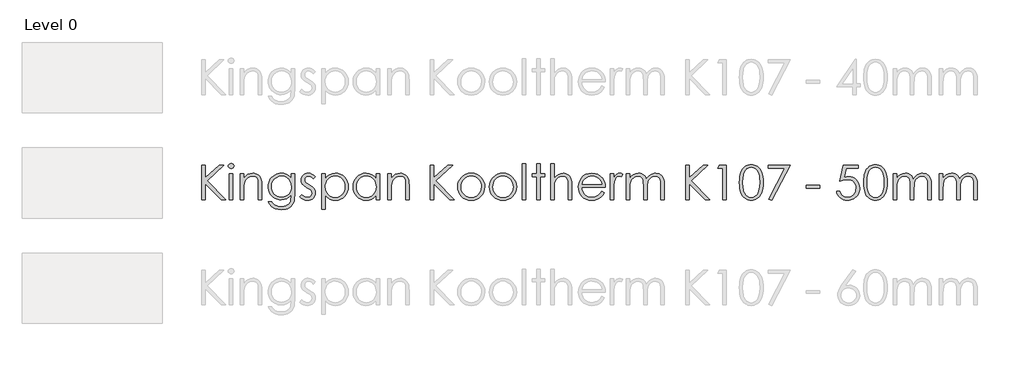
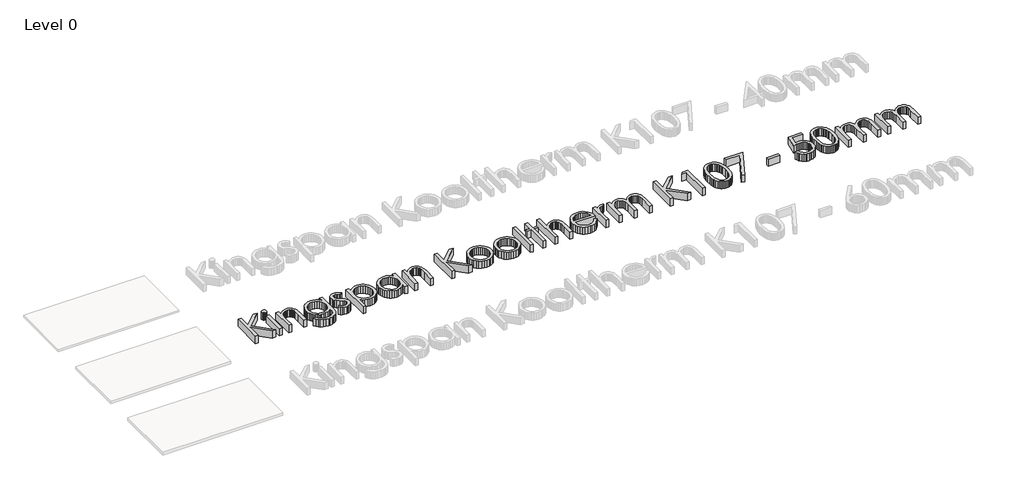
# One storey, part 11 of 13: 1 proxy.
"""IFC4 building model written with IfcOpenShell, lengths in millimetres."""

from ifc_helpers import new_model, si_unit, origin, origin_with_axes, place, context, project, spatial, polyline, outline, extrude, element, save

model = new_model("IFC4")

# Units and contexts
model_context = context("Model", 3, world=origin())
ifc_project = project(units=[si_unit("LENGTHUNIT", "METRE", prefix="MILLI")], contexts=[model_context])

# Site, building, storey
site = spatial("IfcSite", under=ifc_project)
building = spatial("IfcBuilding", under=site)
storey = spatial("IfcBuildingStorey", under=building, Name="Level 0", Elevation=0.0)

# Proxy
placement = place(None, origin())
element("IfcBuildingElementProxy", 1, Name="600mm KI_CenturyGothic", ObjectType="600mm KI_CenturyGothic", at=placement, inside=storey, context=model_context, shape_type="SweptSolid", body=[
    extrude(outline(polyline([(-3852.2663848, 2300.8965983), (-3792.944575, 2300.8965983), (-3792.944575, 2081.683973), (-3555.1938841, 2300.8965983), (-3471.6181051, 2300.8965983), (-3760.9664119, 2033.9484541), (-3441.9572002, 1707.6785001), (-3520.8984627, 1707.6785001), (-3792.944575, 1985.9039675), (-3792.944575, 1707.6785001), (-3852.2663848, 1707.6785001), (-3852.2663848, 2300.8965983)])), origin_with_axes(), (0.0, 0.0, 1.0), 150.0),
    extrude(outline(polyline([(-3348.1854852, 2330.5575033), (-3329.145347, 2327.2747208), (-3313.1176445, 2317.4263735), (-3302.226531, 2302.9821307), (-3298.5961598, 2285.911662), (-3302.226531, 2269.0729191), (-3313.1176445, 2254.7059183), (-3329.145347, 2244.857571), (-3348.1854852, 2241.5747885), (-3366.9938975, 2244.857571), (-3382.9443581, 2254.7059183), (-3393.8354717, 2269.0729191), (-3397.4658428, 2285.911662), (-3393.8354717, 2302.9821307), (-3382.9443581, 2317.4263735), (-3366.9938975, 2327.2747208), (-3348.1854852, 2330.5575033)])), origin_with_axes(), (0.0, 0.0, 1.0), 150.0),
    extrude(outline(polyline([(-3377.6919062, 2152.5920738), (-3318.3700964, 2152.5920738), (-3318.3700964, 1707.6785001), (-3377.6919062, 1707.6785001), (-3377.6919062, 2152.5920738)])), origin_with_axes(), (0.0, 0.0, 1.0), 150.0),
    extrude(outline(polyline([(-3189.8395084, 2152.5920738), (-3130.5176986, 2152.5920738), (-3130.5176986, 2073.4963274), (-3096.9946967, 2113.0055796), (-3060.0730495, 2140.696815), (-3019.7141359, 2157.0334853), (-2975.879335, 2162.4790421), (-2953.4357238, 2160.9004099), (-2932.2955704, 2156.1645135), (-2912.4588747, 2148.2713528), (-2893.9256368, 2137.2209277), (-2877.212412, 2123.4960006), (-2862.835756, 2107.5793333), (-2841.0921499, 2069.1707787), (-2833.6238199, 2044.7912914), (-2828.2892984, 2014.4448643), (-2824.0216812, 1935.8511905), (-2824.0216812, 1707.6785001), (-2883.343491, 1707.6785001), (-2883.343491, 1920.8662542), (-2883.343491, 2023.907002), (-2884.7290183, 2044.7043943), (-2889.8125035, 2062.7596977), (-2898.2849788, 2078.0729123), (-2910.1464442, 2090.644038), (-2924.7403432, 2100.4441091), (-2941.4101193, 2107.4441599), (-2980.977303, 2113.0442006), (-3005.3471351, 2110.8862539), (-3028.4038541, 2104.4124138), (-3050.1474602, 2093.6226803), (-3070.5779533, 2078.5170534), (-3088.6622225, 2060.2348518), (-3103.3671568, 2039.915394), (-3114.6927562, 2017.55868), (-3122.6390208, 1993.1647099), (-3128.5480292, 1946.0857475), (-3130.5176986, 1871.5858965), (-3130.5176986, 1707.6785001), (-3189.8395084, 1707.6785001), (-3189.8395084, 2152.5920738)])), origin_with_axes(), (0.0, 0.0, 1.0), 150.0),
    extrude(outline(polyline([(-2319.7862977, 2152.5920738), (-2260.4644879, 2152.5920738), (-2260.4644879, 1801.604699), (-2264.5196897, 1721.3503235), (-2269.588692, 1690.5500999), (-2276.6852953, 1665.9678526), (-2289.9371156, 1637.3545415), (-2307.2924139, 1612.2267729), (-2328.7511904, 1590.5845469), (-2354.3134448, 1572.4278634), (-2383.3226209, 1558.0656902), (-2415.122162, 1547.8069951), (-2449.7120682, 1541.651778), (-2487.0923395, 1539.6000389), (-2541.0458345, 1543.6166198), (-2589.206184, 1555.6663624), (-2630.260275, 1574.4940853), (-2662.8949946, 1598.8446068), (-2690.2000204, 1632.1938144), (-2715.2650299, 1678.0175952), (-2655.94322, 1678.0175952), (-2642.4355358, 1656.848476), (-2627.0933555, 1638.6048954), (-2609.9166791, 1623.2868532), (-2590.9055067, 1610.8943494), (-2569.7894914, 1601.3308318), (-2546.2982864, 1594.4997477), (-2492.1903075, 1589.0348805), (-2438.5071593, 1594.3645743), (-2415.083541, 1601.0266916), (-2393.93856, 1610.3536559), (-2359.6624492, 1634.3952097), (-2336.8567664, 1663.8823202), (-2329.3884364, 1682.5217658), (-2324.0539149, 1706.2302137), (-2319.7862977, 1768.8541165), (-2319.7862977, 1791.5632468), (-2354.757586, 1755.7809182), (-2396.6420279, 1729.3834852), (-2443.392712, 1713.1047464), (-2492.9627269, 1707.6785001), (-2522.4063889, 1709.5757553), (-2550.9521133, 1715.2675207), (-2578.5999001, 1724.7537964), (-2605.3497494, 1738.0345825), (-2630.1540674, 1754.5257366), (-2651.9652601, 1773.6431168), (-2670.7833277, 1795.3867228), (-2686.6082702, 1819.7565549), (-2699.1456025, 1846.0719183), (-2708.1008399, 1873.6521184), (-2713.4739824, 1902.4971553), (-2715.2650299, 1932.607029), (-2713.3967404, 1962.8955247), (-2707.7918722, 1992.1219437), (-2698.4504251, 2020.286286), (-2685.3723991, 2047.3885517), (-2668.9971079, 2072.5742517), (-2649.7638648, 2094.9888971), (-2627.67267, 2114.632488), (-2602.7235235, 2131.5050242), (-2575.9833294, 2145.056157), (-2548.5189922, 2154.7355376), (-2520.3305117, 2160.543166), (-2491.4178881, 2162.4790421), (-2444.5320306, 2157.5355579), (-2400.8903346, 2142.7051055), (-2359.6045177, 2116.1338782), (-2319.7862977, 2075.9680694), (-2319.7862977, 2152.5920738)]), holes=[polyline([(-2484.1571458, 2113.0442006), (-2529.0154023, 2107.0193293), (-2570.5908765, 2088.9447153), (-2606.2187212, 2060.2300242), (-2633.2340897, 2022.2849212), (-2650.2659375, 1978.0059792), (-2655.94322, 1930.2897708), (-2653.0080263, 1894.3770964), (-2644.2024452, 1861.7182387), (-2629.5264766, 1832.3131977), (-2608.9801206, 1806.1619734), (-2583.7606272, 1784.703197), (-2555.0652466, 1769.3754996), (-2522.8939786, 1760.1788811), (-2487.2468234, 1757.1133416), (-2451.3244937, 1760.154743), (-2419.1001219, 1769.2789472), (-2390.573708, 1784.4859541), (-2365.7452519, 1805.7757637), (-2345.6382095, 1832.0187128), (-2331.2760363, 1862.0851379), (-2322.6587323, 1895.975039), (-2319.7862977, 1933.6884162), (-2325.0773706, 1982.3894593), (-2340.9505892, 2025.6063246), (-2366.4983608, 2061.8327944), (-2400.8130926, 2089.5626508), (-2440.9982119, 2107.1738131), (-2484.1571458, 2113.0442006)])]), origin_with_axes(), (0.0, 0.0, 1.0), 150.0),
    extrude(outline(polyline([(-1904.5336289, 2101.3034257), (-1940.9918246, 2063.609359), (-1962.9575012, 2085.2371022), (-1984.6721416, 2100.6854902), (-2006.1357456, 2109.954523), (-2027.3483133, 2113.0442006), (-2052.181597, 2108.3710632), (-2073.2300256, 2094.3516511), (-2087.5970264, 2074.1142629), (-2092.3860267, 2050.787197), (-2088.4466878, 2029.2366958), (-2076.628671, 2008.7675817), (-2052.0657341, 1986.599145), (-2010.2006027, 1960.877579), (-1958.3326401, 1928.0111336), (-1939.8428507, 1912.1861912), (-1926.315856, 1896.7667689), (-1909.9791857, 1864.0934284), (-1904.5336289, 1827.5579908), (-1906.9474396, 1801.4115941), (-1914.1888714, 1777.3507299), (-1926.2579245, 1755.375398), (-1943.1545989, 1735.4855985), (-1963.6719892, 1718.9944443), (-1986.6031901, 1707.2150485), (-2011.9482016, 1700.147411), (-2039.7070237, 1697.7915318), (-2077.4397114, 1701.6729393), (-2113.3958344, 1713.3171617), (-2145.4512394, 1731.7972958), (-2171.4817731, 1756.1864383), (-2135.7959969, 1796.6612148), (-2114.0041146, 1775.0334717), (-2091.5749863, 1759.5850837), (-2068.5086121, 1750.3160509), (-2044.8049918, 1747.2263733), (-2013.637869, 1752.8650349), (-1987.4914724, 1769.7810198), (-1969.7644472, 1794.3439566), (-1963.8554388, 1822.9234744), (-1967.7561567, 1846.7139919), (-1979.4583106, 1867.7237995), (-2005.0253927, 1889.4287846), (-2050.2119275, 1916.2317378), (-2099.762632, 1946.8967879), (-2117.441381, 1962.0555186), (-2130.3890611, 1977.0983864), (-2146.3781427, 2009.2310334), (-2151.7078365, 2045.689229), (-2149.5305794, 2069.7356104), (-2142.9988078, 2091.6674937), (-2132.1125219, 2111.4848789), (-2116.8717217, 2129.187766), (-2098.309518, 2143.7526993), (-2077.4590218, 2154.1562231), (-2054.3202332, 2160.3983373), (-2028.8931521, 2162.4790421), (-1997.9481, 2158.6555661), (-1966.9064954, 2147.185138), (-1935.7683384, 2128.0677579), (-1904.5336289, 2101.3034257)])), origin_with_axes(), (0.0, 0.0, 1.0), 150.0),
    extrude(outline(polyline([(-1795.7769776, 2152.5920738), (-1736.4551678, 2152.5920738), (-1736.4551678, 2071.4880369), (-1700.9238754, 2111.7310876), (-1660.4490989, 2140.0788795), (-1614.9922173, 2156.8790014), (-1564.5146096, 2162.4790421), (-1520.0618732, 2158.2403906), (-1478.9305402, 2145.5244363), (-1441.1206107, 2124.331179), (-1406.6320845, 2094.6606189), (-1377.9077381, 2059.0231189), (-1357.3903478, 2019.929042), (-1345.0799137, 1977.3783884), (-1340.9764356, 1931.371158), (-1345.0412927, 1884.4708176), (-1357.235864, 1841.2491246), (-1377.5601494, 1801.706079), (-1406.014149, 1765.8416808), (-1440.2130179, 1736.0697406), (-1477.7719111, 1714.8040691), (-1518.6908288, 1702.0446661), (-1562.9697708, 1697.7915318), (-1612.6170277, 1703.256399), (-1658.0545988, 1719.6510008), (-1699.3211052, 1746.8980951), (-1736.4551678, 1784.92044), (-1736.4551678, 1549.4870072), (-1795.7769776, 1549.4870072), (-1795.7769776, 2152.5920738)]), holes=[polyline([(-1568.5311905, 2113.0442006), (-1602.5852307, 2109.7469353), (-1633.8392507, 2099.8551393), (-1662.2932503, 2083.3688128), (-1687.9472295, 2060.2879556), (-1709.1694525, 2032.3022353), (-1724.3281832, 2001.1013192), (-1733.4234216, 1966.6852074), (-1736.4551678, 1929.0538998), (-1731.048232, 1880.1983728), (-1714.8274246, 1836.5180558), (-1688.5265441, 1799.6736505), (-1652.8793888, 1771.3258586), (-1611.4390881, 1753.2512446), (-1567.7587711, 1747.2263733), (-1525.0632888, 1753.2898656), (-1485.0326535, 1771.4803424), (-1450.2544701, 1800.5812433), (-1423.3163435, 1839.3760076), (-1406.05277, 1884.0411593), (-1400.2982454, 1930.7532225), (-1405.9948385, 1977.6970114), (-1423.0846177, 2022.1304373), (-1449.8103289, 2060.4810605), (-1484.414718, 2089.1764411), (-1524.7157001, 2107.0772607), (-1568.5311905, 2113.0442006)])]), origin_with_axes(), (0.0, 0.0, 1.0), 150.0),
    extrude(outline(polyline([(-807.0801472, 2152.5920738), (-807.0801472, 1707.6785001), (-866.401957, 1707.6785001), (-866.401957, 1783.5300851), (-903.4780882, 1745.6815345), (-944.8797679, 1718.9558233), (-990.4525125, 1703.0826047), (-1040.0418379, 1697.7915318), (-1084.3159523, 1702.0446661), (-1125.2203871, 1714.8040691), (-1162.7551422, 1736.0697406), (-1196.9202178, 1765.8416808), (-1225.340424, 1801.706079), (-1245.6405713, 1841.2491246), (-1257.8206597, 1884.4708176), (-1261.8806892, 1931.371158), (-1257.7820388, 1977.3783884), (-1245.4860875, 2019.929042), (-1224.9928353, 2059.0231189), (-1196.3022822, 2094.6606189), (-1161.8475494, 2124.331179), (-1124.061758, 2145.5244363), (-1082.9449079, 2158.2403906), (-1038.4969991, 2162.4790421), (-987.7490446, 2156.8790014), (-942.0990581, 2140.0788795), (-921.2051134, 2127.3918909), (-901.6242816, 2111.7310876), (-866.401957, 2071.4880369), (-866.401957, 2152.5920738), (-807.0801472, 2152.5920738)]), holes=[polyline([(-1034.3259343, 2113.0442006), (-1078.1414247, 2107.0772607), (-1118.4424068, 2089.1764411), (-1153.0467959, 2060.4810605), (-1179.7725071, 2022.1304373), (-1196.8622863, 1977.6970114), (-1202.5588794, 1930.7532225), (-1196.8043548, 1884.0411593), (-1179.5407813, 1839.3760076), (-1152.6026548, 1800.5812433), (-1117.8244713, 1771.4803424), (-1077.6779731, 1753.2898656), (-1034.6349021, 1747.2263733), (-991.0125165, 1753.2512446), (-949.7460102, 1771.3258586), (-914.2726493, 1799.6736505), (-888.0297002, 1836.5180558), (-871.8088928, 1880.1983728), (-866.401957, 1929.0538998), (-869.4337032, 1966.6852074), (-878.5289416, 2001.1013192), (-893.6876723, 2032.3022353), (-914.9098953, 2060.2879556), (-940.5638746, 2083.3688128), (-969.0178742, 2099.8551393), (-1000.2718941, 2109.7469353), (-1034.3259343, 2113.0442006)])]), origin_with_axes(), (0.0, 0.0, 1.0), 150.0),
    extrude(outline(polyline([(-668.662591, 2152.5920738), (-609.3407811, 2152.5920738), (-609.3407811, 2073.4963274), (-575.8177792, 2113.0055796), (-538.896132, 2140.696815), (-498.5372184, 2157.0334853), (-454.7024175, 2162.4790421), (-432.2588064, 2160.9004099), (-411.1186529, 2156.1645135), (-391.2819572, 2148.2713528), (-372.7487193, 2137.2209277), (-356.0354946, 2123.4960006), (-341.6588385, 2107.5793333), (-319.9152324, 2069.1707787), (-312.4469024, 2044.7912914), (-307.1123809, 2014.4448643), (-302.8447637, 1935.8511905), (-302.8447637, 1707.6785001), (-362.1665735, 1707.6785001), (-362.1665735, 1920.8662542), (-362.1665735, 2023.907002), (-363.5521008, 2044.7043943), (-368.635586, 2062.7596977), (-377.1080613, 2078.0729123), (-388.9695267, 2090.644038), (-403.5634257, 2100.4441091), (-420.2332018, 2107.4441599), (-459.8003855, 2113.0442006), (-484.1702176, 2110.8862539), (-507.2269366, 2104.4124138), (-528.9705427, 2093.6226803), (-549.4010358, 2078.5170534), (-567.485305, 2060.2348518), (-582.1902393, 2039.915394), (-593.5158387, 2017.55868), (-601.4621033, 1993.1647099), (-607.3711117, 1946.0857475), (-609.3407811, 1871.5858965), (-609.3407811, 1707.6785001), (-668.662591, 1707.6785001), (-668.662591, 2152.5920738)])), origin_with_axes(), (0.0, 0.0, 1.0), 150.0),
    extrude(outline(polyline([(62.9730635, 2300.8965983), (122.2948734, 2300.8965983), (122.2948734, 2081.683973), (360.0455643, 2300.8965983), (443.6213432, 2300.8965983), (154.2730365, 2033.9484541), (473.2822481, 1707.6785001), (394.3409856, 1707.6785001), (122.2948734, 1985.9039675), (122.2948734, 1707.6785001), (62.9730635, 1707.6785001), (62.9730635, 2300.8965983)])), origin_with_axes(), (0.0, 0.0, 1.0), 150.0),
    extrude(outline(polyline([(760.1588128, 2162.4790421), (809.4681362, 2157.8541809), (854.3553585, 2143.9795975), (894.8204798, 2120.8552917), (930.8635, 2088.4812637), (957.7630055, 2053.2492839), (976.9769381, 2014.908316), (988.5052976, 1973.45836), (992.3480841, 1928.8994159), (988.283227, 1884.0846079), (976.0886558, 1842.1760279), (955.7643703, 1803.1736759), (927.3103707, 1767.0775519), (892.4742558, 1736.7649181), (853.0036246, 1715.1130368), (808.8984769, 1702.1219081), (760.1588128, 1697.7915318), (711.2839754, 1702.1219081), (667.0822753, 1715.1130368), (627.5537126, 1736.7649181), (592.6982872, 1767.0775519), (564.2442876, 1803.1736759), (543.9200022, 1842.1760279), (531.7254309, 1884.0846079), (527.6605738, 1928.8994159), (531.5033603, 1973.2652551), (543.0317198, 2014.5993482), (562.2456524, 2052.9016951), (589.145158, 2088.1722959), (625.2074886, 2120.6814974), (665.7305413, 2143.9023555), (710.7143161, 2157.8348705), (760.1588128, 2162.4790421)]), holes=[polyline([(760.004329, 2113.0442006), (725.7282181, 2109.6696933), (693.9624704, 2099.5461716), (664.7070856, 2082.6736353), (637.962064, 2059.0520846), (615.6584538, 2030.6415336), (599.7273037, 1999.4019965), (590.1686137, 1965.3334734), (586.9823836, 1928.4359643), (592.7948396, 1880.7004454), (610.2322075, 1836.3635719), (637.5758543, 1798.5729529), (673.1071466, 1770.4761972), (714.6439998, 1753.0388293), (760.004329, 1747.2263733), (805.3646581, 1753.0388293), (846.9015113, 1770.4761972), (882.4328037, 1798.5729529), (909.7764504, 1836.3635719), (927.2138183, 1880.7004454), (933.0262743, 1928.4359643), (929.8255614, 1965.3334734), (920.2234227, 1999.4019965), (904.2198583, 2030.6415336), (881.8148681, 2059.0520846), (854.9974321, 2082.6736353), (825.7565303, 2099.5461716), (794.0921625, 2109.6696933), (760.004329, 2113.0442006)])]), origin_with_axes(), (0.0, 0.0, 1.0), 150.0),
    extrude(outline(polyline([(1303.9420695, 2162.4790421), (1353.2513929, 2157.8541809), (1398.1386152, 2143.9795975), (1438.6037365, 2120.8552917), (1474.6467567, 2088.4812637), (1501.5462622, 2053.2492839), (1520.7601948, 2014.908316), (1532.2885543, 1973.45836), (1536.1313408, 1928.8994159), (1532.0664837, 1884.0846079), (1519.8719125, 1842.1760279), (1499.547627, 1803.1736759), (1471.0936274, 1767.0775519), (1436.2575126, 1736.7649181), (1396.7868813, 1715.1130368), (1352.6817336, 1702.1219081), (1303.9420695, 1697.7915318), (1255.0672321, 1702.1219081), (1210.865532, 1715.1130368), (1171.3369693, 1736.7649181), (1136.4815439, 1767.0775519), (1108.0275443, 1803.1736759), (1087.7032589, 1842.1760279), (1075.5086876, 1884.0846079), (1071.4438305, 1928.8994159), (1075.286617, 1973.2652551), (1086.8149766, 2014.5993482), (1106.0289091, 2052.9016951), (1132.9284147, 2088.1722959), (1168.9907453, 2120.6814974), (1209.5137981, 2143.9023555), (1254.4975728, 2157.8348705), (1303.9420695, 2162.4790421)]), holes=[polyline([(1303.7875857, 2113.0442006), (1269.5114748, 2109.6696933), (1237.7457271, 2099.5461716), (1208.4903423, 2082.6736353), (1181.7453207, 2059.0520846), (1159.4417105, 2030.6415336), (1143.5105604, 1999.4019965), (1133.9518704, 1965.3334734), (1130.7656404, 1928.4359643), (1136.5780963, 1880.7004454), (1154.0154643, 1836.3635719), (1181.359111, 1798.5729529), (1216.8904033, 1770.4761972), (1258.4272565, 1753.0388293), (1303.7875857, 1747.2263733), (1349.1479149, 1753.0388293), (1390.684768, 1770.4761972), (1426.2160604, 1798.5729529), (1453.5597071, 1836.3635719), (1470.997075, 1880.7004454), (1476.809531, 1928.4359643), (1473.6088181, 1965.3334734), (1464.0066795, 1999.4019965), (1448.003115, 2030.6415336), (1425.5981249, 2059.0520846), (1398.7806889, 2082.6736353), (1369.539787, 2099.5461716), (1337.8754193, 2109.6696933), (1303.7875857, 2113.0442006)])]), origin_with_axes(), (0.0, 0.0, 1.0), 150.0),
    extrude(outline(polyline([(1635.0010238, 2320.6705349), (1694.3228337, 2320.6705349), (1694.3228337, 1707.6785001), (1635.0010238, 1707.6785001), (1635.0010238, 2320.6705349)])), origin_with_axes(), (0.0, 0.0, 1.0), 150.0),
    extrude(outline(polyline([(1882.1752314, 2320.6705349), (1941.4970413, 2320.6705349), (1941.4970413, 2152.5920738), (2020.5927877, 2152.5920738), (2020.5927877, 2103.1572323), (1941.4970413, 2103.1572323), (1941.4970413, 1707.6785001), (1882.1752314, 1707.6785001), (1882.1752314, 2103.1572323), (1803.079485, 2103.1572323), (1803.079485, 2152.5920738), (1882.1752314, 2152.5920738), (1882.1752314, 2320.6705349)])), origin_with_axes(), (0.0, 0.0, 1.0), 150.0),
    extrude(outline(polyline([(2119.4624707, 2320.6705349), (2178.7842806, 2320.6705349), (2178.7842806, 2071.9514886), (2212.5583188, 2111.6538456), (2249.6151394, 2139.9243956), (2289.9161216, 2156.8403805), (2333.4226442, 2162.4790421), (2355.8662553, 2160.9004099), (2377.0064088, 2156.1645135), (2396.8431044, 2148.2713528), (2415.3763424, 2137.2209277), (2432.0895671, 2123.5104834), (2446.4662232, 2107.6372648), (2468.2098293, 2069.4025045), (2475.6781593, 2045.0954316), (2481.0126808, 2014.7345216), (2485.280298, 1935.8511905), (2485.280298, 1707.6785001), (2425.9584882, 1707.6785001), (2425.9584882, 1920.8662542), (2424.5681332, 1985.247411), (2420.3970685, 2023.907002), (2406.879729, 2062.7596977), (2397.1665551, 2078.0729123), (2385.4837117, 2090.644038), (2371.840854, 2100.4441091), (2356.2476374, 2107.4441599), (2319.2101273, 2113.0442006), (2296.3416854, 2110.8862539), (2274.6994594, 2104.4124138), (2254.2834492, 2093.6226803), (2235.0936547, 2078.5170534), (2218.1052556, 2060.2348518), (2204.2934312, 2039.915394), (2193.6581816, 2017.55868), (2186.1995068, 1993.1647099), (2180.6380871, 1946.3174733), (2178.7842806, 1871.5858965), (2178.7842806, 1707.6785001), (2119.4624707, 1707.6785001), (2119.4624707, 2320.6705349)])), origin_with_axes(), (0.0, 0.0, 1.0), 150.0),
    extrude(outline(polyline([(2991.0605203, 1855.9830247), (3038.950523, 1830.8021523), (3013.3255094, 1788.9177104), (2984.0315038, 1755.9547125), (2950.952643, 1730.8703926), (2913.9730643, 1712.6219843), (2872.4941426, 1701.4991449), (2825.9172528, 1697.7915318), (2774.4258447, 1702.2232881), (2728.8627554, 1715.518557), (2689.227985, 1737.6773385), (2655.5215335, 1768.6996326), (2628.6220279, 1805.3026569), (2609.4080954, 1844.2036288), (2597.8797358, 1885.4025485), (2594.0369493, 1928.8994159), (2597.3197318, 1969.7797126), (2607.1680791, 2008.381372), (2623.5819913, 2044.7043943), (2646.5614684, 2078.7487793), (2682.7493173, 2115.3807692), (2724.5758277, 2141.5464764), (2772.0409998, 2157.2459007), (2825.1448334, 2162.4790421), (2879.7935059, 2157.1107273), (2928.6490329, 2141.0057828), (2971.7114143, 2114.1642087), (3008.9806503, 2076.5860049), (3030.4539096, 2044.414737), (3045.9022976, 2008.458614), (3055.3258143, 1968.7176359), (3058.7244596, 1925.1918028), (2653.3587591, 1925.1918028), (2657.095338, 1887.9370497), (2666.6057518, 1854.1871496), (2681.8900007, 1823.9421025), (2702.9480845, 1797.2019084), (2728.3124066, 1775.3376118), (2756.5153699, 1759.7202571), (2787.5569744, 1750.3498443), (2821.4372203, 1747.2263733), (2854.9602222, 1750.238809), (2887.5563208, 1759.2761159), (2917.2944677, 1773.3148385), (2942.2436143, 1791.331521), (2965.725164, 1817.4972281), (2991.0605203, 1855.9830247)]), holes=[polyline([(2999.4026498, 1974.6266443), (2984.9777175, 2017.1483322), (2965.1844704, 2050.1692615), (2939.0766947, 2075.6977226), (2905.7081767, 2095.742006), (2867.7630738, 2108.7186519), (2827.9255433, 2113.0442006), (2795.503239, 2110.3310774), (2765.4368139, 2102.191708), (2737.726268, 2088.6260923), (2712.3716012, 2069.6342304), (2695.8321708, 2051.820308), (2681.4362043, 2030.0477362), (2669.1837016, 2004.316515), (2659.0746627, 1974.6266443), (2999.4026498, 1974.6266443)])]), origin_with_axes(), (0.0, 0.0, 1.0), 150.0),
    extrude(outline(polyline([(3137.820206, 2152.5920738), (3197.1420159, 2152.5920738), (3197.1420159, 2088.1722959), (3222.6897875, 2121.2125357), (3249.589293, 2144.3271862), (3277.7632906, 2157.9410781), (3307.1345382, 2162.4790421), (3330.4616041, 2158.694187), (3355.3335087, 2147.3396219), (3325.8270877, 2105.3200066), (3297.2475699, 2113.0442006), (3270.8308265, 2107.0965712), (3245.3409863, 2089.2536831), (3223.2884125, 2058.8976007), (3207.183468, 2015.4103886), (3199.6523789, 1957.2858288), (3197.1420159, 1859.8451217), (3197.1420159, 1707.6785001), (3137.820206, 1707.6785001), (3137.820206, 2152.5920738)])), origin_with_axes(), (0.0, 0.0, 1.0), 150.0),
    extrude(outline(polyline([(3414.6553185, 2152.5920738), (3473.9771284, 2152.5920738), (3473.9771284, 2076.4315211), (3503.5607913, 2112.9283377), (3533.9168737, 2138.0705891), (3577.3268439, 2156.3769288), (3622.8995884, 2162.4790421), (3653.7384329, 2159.331433), (3682.9165757, 2149.8886059), (3708.6767627, 2135.2126373), (3729.2617397, 2116.365604), (3746.0425511, 2090.9336953), (3760.3902414, 2056.5031006), (3775.16759, 2080.9018983), (3791.6925376, 2102.191708), (3809.965084, 2120.3725296), (3829.9852293, 2135.4443631), (3851.2798666, 2147.2720352), (3873.375889, 2155.7203723), (3896.2732965, 2160.7893747), (3919.9720892, 2162.4790421), (3962.3006723, 2156.6665861), (3981.4952943, 2149.4010161), (3999.3768034, 2139.2292182), (4015.4914031, 2126.46016), (4029.385297, 2111.4028093), (4050.5109676, 2074.4232306), (4057.8103309, 2051.0478886), (4063.0241619, 2022.4780261), (4067.1952266, 1949.7547397), (4067.1952266, 1707.6785001), (4007.8734168, 1707.6785001), (4007.8734168, 1953.3078689), (4005.4209852, 2014.4255538), (3998.0636904, 2052.8727294), (3984.7587663, 2077.3391139), (3964.4634466, 2096.5144254), (3938.3942919, 2108.9117568), (3907.7678627, 2113.0442006), (3888.1194443, 2111.4945341), (3869.3399976, 2106.8455349), (3834.3880198, 2088.2495379), (3805.6540182, 2059.3031209), (3785.8800816, 2022.0531954), (3779.1889985, 1997.8957787), (3774.4096535, 1966.8252084), (3770.5861775, 1883.9446069), (3770.5861775, 1707.6785001), (3711.2643677, 1707.6785001), (3711.2643677, 1938.0139648), (3708.850557, 2006.469634), (3701.6091252, 2048.7016647), (3688.3621325, 2074.9446137), (3667.9316394, 2095.4330383), (3641.6114484, 2108.64141), (3610.6953619, 2113.0442006), (3573.7544042, 2107.0000188), (3539.2465676, 2088.8674734), (3510.2808401, 2060.500371), (3489.9662099, 2023.7525181), (3477.9743988, 1971.9231764), (3473.9771284, 1898.3116077), (3473.9771284, 1707.6785001), (3414.6553185, 1707.6785001), (3414.6553185, 2152.5920738)])), origin_with_axes(), (0.0, 0.0, 1.0), 150.0),
    extrude(outline(polyline([(4433.0130538, 2300.8965983), (4492.3348637, 2300.8965983), (4492.3348637, 2081.683973), (4730.0855546, 2300.8965983), (4813.6613335, 2300.8965983), (4524.3130268, 2033.9484541), (4843.3222385, 1707.6785001), (4764.3809759, 1707.6785001), (4492.3348637, 1985.9039675), (4492.3348637, 1707.6785001), (4433.0130538, 1707.6785001), (4433.0130538, 2300.8965983)])), origin_with_axes(), (0.0, 0.0, 1.0), 150.0),
    extrude(outline(polyline([(5010.6282802, 2300.8965983), (5125.1008351, 2300.8965983), (5125.1008351, 1707.6785001), (5065.7790253, 1707.6785001), (5065.7790253, 2251.4617568), (4976.7963106, 2251.4617568), (5010.6282802, 2300.8965983)])), origin_with_axes(), (0.0, 0.0, 1.0), 150.0),
    extrude(outline(polyline([(5352.5011061, 2004.1330653), (5354.0797383, 2058.5644948), (5358.8156347, 2106.4593252), (5366.7087954, 2147.8175564), (5377.7592204, 2182.6391884), (5391.6869077, 2212.2807828), (5408.2118552, 2238.0989012), (5427.334063, 2260.0935436), (5449.053531, 2278.26471), (5472.747496, 2292.4917098), (5497.793195, 2302.6538525), (5524.190628, 2308.7511381), (5551.9397949, 2310.7835666), (5580.1427582, 2308.7366552), (5606.974677, 2302.595921), (5632.4355515, 2292.361364), (5656.5253815, 2278.0329841), (5678.7083011, 2259.6156091), (5698.4484443, 2237.1140665), (5715.7458112, 2210.5283563), (5730.6004018, 2179.8584786), (5742.5294539, 2144.3416691), (5751.0502054, 2103.2151637), (5756.1626563, 2056.4789625), (5757.8668066, 2004.1330653), (5756.1867944, 1951.9464797), (5751.1467578, 1905.3792452), (5742.7466968, 1864.4313618), (5730.9866115, 1829.1028296), (5716.2768496, 1798.5777805), (5699.0277589, 1772.0403465), (5679.2393394, 1749.4905277), (5656.9115912, 1730.928324), (5632.6527944, 1716.4309774), (5607.0712295, 1706.0757299), (5580.1668963, 1699.8625813), (5551.9397949, 1697.7915318), (5524.2147661, 1699.7998222), (5497.8897474, 1705.8246936), (5472.964739, 1715.8661457), (5449.4397407, 1729.9241788), (5427.8651013, 1747.9601718), (5408.7911698, 1769.9355036), (5392.2179461, 1795.8501745), (5378.1454301, 1825.7041842), (5366.9260384, 1860.7237487), (5358.9121871, 1902.1350837), (5354.1038764, 1949.9381893), (5352.5011061, 2004.1330653)]), holes=[polyline([(5411.8229159, 2004.2875492), (5416.206396, 1915.961391), (5421.6857461, 1880.9804475), (5429.3568363, 1852.1209277), (5439.1713903, 1827.8814414), (5451.0811319, 1806.7605985), (5465.0860611, 1788.7583989), (5481.1861779, 1773.8748426), (5516.4857445, 1753.8884906), (5534.8886366, 1748.8919027), (5553.7936014, 1747.2263733), (5572.7854634, 1748.8581093), (5591.1400794, 1753.7533172), (5625.9375733, 1773.334149), (5641.694929, 1788.0101176), (5655.4439943, 1805.9302476), (5667.1847692, 1827.0945392), (5676.9172536, 1851.5029922), (5686.3793912, 1884.8618549), (5693.138061, 1921.4455687), (5698.5449967, 2004.2875492), (5693.7173755, 2085.8936587), (5687.682849, 2120.5849449), (5679.2345118, 2151.2017189), (5668.652366, 2177.864671), (5656.2164137, 2200.6944918), (5641.9266548, 2219.6911814), (5625.7830894, 2234.8547397), (5590.7152487, 2254.7252288), (5572.4861509, 2259.692851), (5553.7936014, 2261.3487251), (5534.7776014, 2259.692851), (5516.3505711, 2254.7252288), (5481.2634199, 2234.8547397), (5465.3177869, 2220.0435978), (5451.3900996, 2202.1041572), (5439.480358, 2181.0364181), (5429.5885621, 2156.8403805), (5421.8160919, 2127.9856883), (5416.2643275, 2092.9419857), (5411.8229159, 2004.2875492)])]), origin_with_axes(), (0.0, 0.0, 1.0), 150.0),
    extrude(outline(polyline([(5846.8495213, 2300.8965983), (6222.5543169, 2300.8965983), (5906.1713311, 1697.7915318), (5852.2564571, 1720.1916944), (6130.9453762, 2251.4617568), (5846.8495213, 2251.4617568), (5846.8495213, 2300.8965983)])), origin_with_axes(), (0.0, 0.0, 1.0), 150.0),
    extrude(outline(polyline([(6499.3894294, 1954.8527077), (6726.7897004, 1954.8527077), (6726.7897004, 1905.4178662), (6499.3894294, 1905.4178662), (6499.3894294, 1954.8527077)])), origin_with_axes(), (0.0, 0.0, 1.0), 150.0),
    extrude(outline(polyline([(7389.2165767, 2300.8965983), (7389.2165767, 2251.4617568), (7181.8992101, 2251.4617568), (7147.4493049, 2090.4895541), (7185.0275087, 2099.9903127), (7218.6663735, 2103.1572323), (7258.2528677, 2099.7344488), (7294.2089907, 2089.4660984), (7326.5347425, 2072.3521811), (7355.2301232, 2048.3926969), (7378.7502939, 2019.0842083), (7395.5504158, 1985.923278), (7405.6304889, 1948.909906), (7408.9905133, 1908.0440921), (7407.2670525, 1879.0783647), (7402.0966702, 1851.3485083), (7393.4793663, 1824.8545229), (7381.4151408, 1799.5964086), (7366.410894, 1776.3948609), (7348.973526, 1756.0705754), (7329.103037, 1738.6235523), (7306.7994269, 1724.0537914), (7282.3668358, 1712.5640528), (7256.1094038, 1704.3570967), (7228.0271311, 1699.432923), (7198.1200175, 1697.7915318), (7162.7866576, 1700.5481035), (7130.3209047, 1708.8178187), (7100.7227589, 1722.6006774), (7073.9922201, 1741.8966795), (7051.2396412, 1765.5665064), (7033.575375, 1792.4708396), (7020.9994217, 1822.609679), (7013.5117812, 1855.9830247), (7072.833591, 1855.9830247), (7082.4115915, 1823.2517526), (7096.9330762, 1797.3563923), (7116.7649443, 1777.0417621), (7142.2740949, 1761.0526806), (7171.2977538, 1750.6829501), (7201.6731467, 1747.2263733), (7230.9623248, 1750.1519118), (7258.1176943, 1758.9285272), (7283.1392552, 1773.5562196), (7306.0270075, 1794.0349889), (7325.1202495, 1818.9068935), (7338.7582795, 1846.7139919), (7346.9410975, 1877.456284), (7349.6687035, 1911.1337697), (7347.2066167, 1941.3208854), (7339.8203562, 1968.5438415), (7327.509922, 1992.8026383), (7310.2753142, 2014.0972756), (7288.9179178, 2031.4332635), (7264.239118, 2043.816112), (7236.2389148, 2051.245821), (7204.9173082, 2053.7223907), (7176.2122723, 2051.8685842), (7144.6299741, 2046.3071645), (7072.833591, 2024.0614858), (7132.1554008, 2300.8965983), (7389.2165767, 2300.8965983)])), origin_with_axes(), (0.0, 0.0, 1.0), 150.0),
    extrude(outline(polyline([(7478.1992914, 2004.1330653), (7479.7779236, 2058.5644948), (7484.51382, 2106.4593252), (7492.4069808, 2147.8175564), (7503.4574058, 2182.6391884), (7517.3850931, 2212.2807828), (7533.9100406, 2238.0989012), (7553.0322483, 2260.0935436), (7574.7517163, 2278.26471), (7598.4456813, 2292.4917098), (7623.4913804, 2302.6538525), (7649.8888133, 2308.7511381), (7677.6379802, 2310.7835666), (7705.8409435, 2308.7366552), (7732.6728624, 2302.595921), (7758.1337368, 2292.361364), (7782.2235668, 2278.0329841), (7804.4064864, 2259.6156091), (7824.1466297, 2237.1140665), (7841.4439966, 2210.5283563), (7856.2985871, 2179.8584786), (7868.2276392, 2144.3416691), (7876.7483907, 2103.2151637), (7881.8608416, 2056.4789625), (7883.5649919, 2004.1330653), (7881.8849797, 1951.9464797), (7876.8449431, 1905.3792452), (7868.4448822, 1864.4313618), (7856.6847968, 1829.1028296), (7841.9750349, 1798.5777805), (7824.7259442, 1772.0403465), (7804.9375247, 1749.4905277), (7782.6097765, 1730.928324), (7758.3509797, 1716.4309774), (7732.7694148, 1706.0757299), (7705.8650816, 1699.8625813), (7677.6379802, 1697.7915318), (7649.9129514, 1699.7998222), (7623.5879328, 1705.8246936), (7598.6629243, 1715.8661457), (7575.137926, 1729.9241788), (7553.5632867, 1747.9601718), (7534.4893551, 1769.9355036), (7517.9161314, 1795.8501745), (7503.8436155, 1825.7041842), (7492.6242237, 1860.7237487), (7484.6103725, 1902.1350837), (7479.8020617, 1949.9381893), (7478.1992914, 2004.1330653)]), holes=[polyline([(7537.5211013, 2004.2875492), (7541.9045814, 1915.961391), (7547.3839315, 1880.9804475), (7555.0550216, 1852.1209277), (7564.8695756, 1827.8814414), (7576.7793172, 1806.7605985), (7590.7842464, 1788.7583989), (7606.8843633, 1773.8748426), (7642.1839298, 1753.8884906), (7660.586822, 1748.8919027), (7679.4917868, 1747.2263733), (7698.4836487, 1748.8581093), (7716.8382647, 1753.7533172), (7751.6357586, 1773.334149), (7767.3931143, 1788.0101176), (7781.1421796, 1805.9302476), (7792.8829545, 1827.0945392), (7802.6154389, 1851.5029922), (7812.0775766, 1884.8618549), (7818.8362463, 1921.4455687), (7824.2431821, 2004.2875492), (7819.4155608, 2085.8936587), (7813.3810343, 2120.5849449), (7804.9326971, 2151.2017189), (7794.3505514, 2177.864671), (7781.914599, 2200.6944918), (7767.6248402, 2219.6911814), (7751.4812747, 2234.8547397), (7716.413434, 2254.7252288), (7698.1843362, 2259.692851), (7679.4917868, 2261.3487251), (7660.4757867, 2259.692851), (7642.0487564, 2254.7252288), (7606.9616052, 2234.8547397), (7591.0159723, 2220.0435978), (7577.088285, 2202.1041572), (7565.1785434, 2181.0364181), (7555.2867474, 2156.8403805), (7547.5142772, 2127.9856883), (7541.9625128, 2092.9419857), (7537.5211013, 2004.2875492)])]), origin_with_axes(), (0.0, 0.0, 1.0), 150.0),
    extrude(outline(polyline([(7982.4346749, 2152.5920738), (8041.7564848, 2152.5920738), (8041.7564848, 2076.4315211), (8071.3401477, 2112.9283377), (8101.6962301, 2138.0705891), (8145.1062003, 2156.3769288), (8190.6789448, 2162.4790421), (8221.5177893, 2159.331433), (8250.6959321, 2149.8886059), (8276.4561191, 2135.2126373), (8297.0410961, 2116.365604), (8313.8219075, 2090.9336953), (8328.1695978, 2056.5031006), (8342.9469464, 2080.9018983), (8359.471894, 2102.191708), (8377.7444404, 2120.3725296), (8397.7645856, 2135.4443631), (8419.0592229, 2147.2720352), (8441.1552454, 2155.7203723), (8464.0526529, 2160.7893747), (8487.7514456, 2162.4790421), (8530.0800287, 2156.6665861), (8549.2746507, 2149.4010161), (8567.1561598, 2139.2292182), (8583.2707595, 2126.46016), (8597.1646534, 2111.4028093), (8618.290324, 2074.4232306), (8625.5896873, 2051.0478886), (8630.8035182, 2022.4780261), (8634.974583, 1949.7547397), (8634.974583, 1707.6785001), (8575.6527732, 1707.6785001), (8575.6527732, 1953.3078689), (8573.2003416, 2014.4255538), (8565.8430468, 2052.8727294), (8552.5381227, 2077.3391139), (8532.242803, 2096.5144254), (8506.1736483, 2108.9117568), (8475.5472191, 2113.0442006), (8455.8988006, 2111.4945341), (8437.119354, 2106.8455349), (8402.1673762, 2088.2495379), (8373.4333746, 2059.3031209), (8353.659438, 2022.0531954), (8346.9683549, 1997.8957787), (8342.1890099, 1966.8252084), (8338.3655339, 1883.9446069), (8338.3655339, 1707.6785001), (8279.0437241, 1707.6785001), (8279.0437241, 1938.0139648), (8276.6299134, 2006.469634), (8269.3884816, 2048.7016647), (8256.1414889, 2074.9446137), (8235.7109958, 2095.4330383), (8209.3908048, 2108.64141), (8178.4747183, 2113.0442006), (8141.5337606, 2107.0000188), (8107.025924, 2088.8674734), (8078.0601965, 2060.500371), (8057.7455663, 2023.7525181), (8045.7537552, 1971.9231764), (8041.7564848, 1898.3116077), (8041.7564848, 1707.6785001), (7982.4346749, 1707.6785001), (7982.4346749, 2152.5920738)])), origin_with_axes(), (0.0, 0.0, 1.0), 150.0),
    extrude(outline(polyline([(8773.3921393, 2152.5920738), (8832.7139491, 2152.5920738), (8832.7139491, 2076.4315211), (8862.2976121, 2112.9283377), (8892.6536944, 2138.0705891), (8936.0636646, 2156.3769288), (8981.6364092, 2162.4790421), (9012.4752537, 2159.331433), (9041.6533964, 2149.8886059), (9067.4135834, 2135.2126373), (9087.9985604, 2116.365604), (9104.7793718, 2090.9336953), (9119.1270621, 2056.5031006), (9133.9044108, 2080.9018983), (9150.4293583, 2102.191708), (9168.7019047, 2120.3725296), (9188.72205, 2135.4443631), (9210.0166873, 2147.2720352), (9232.1127097, 2155.7203723), (9255.0101172, 2160.7893747), (9278.7089099, 2162.4790421), (9321.037493, 2156.6665861), (9340.232115, 2149.4010161), (9358.1136241, 2139.2292182), (9374.2282238, 2126.46016), (9388.1221177, 2111.4028093), (9409.2477883, 2074.4232306), (9416.5471516, 2051.0478886), (9421.7609826, 2022.4780261), (9425.9320473, 1949.7547397), (9425.9320473, 1707.6785001), (9366.6102375, 1707.6785001), (9366.6102375, 1953.3078689), (9364.1578059, 2014.4255538), (9356.8005111, 2052.8727294), (9343.495587, 2077.3391139), (9323.2002673, 2096.5144254), (9297.1311126, 2108.9117568), (9266.5046834, 2113.0442006), (9246.856265, 2111.4945341), (9228.0768183, 2106.8455349), (9193.1248405, 2088.2495379), (9164.3908389, 2059.3031209), (9144.6169023, 2022.0531954), (9137.9258192, 1997.8957787), (9133.1464742, 1966.8252084), (9129.3229982, 1883.9446069), (9129.3229982, 1707.6785001), (9070.0011884, 1707.6785001), (9070.0011884, 1938.0139648), (9067.5873778, 2006.469634), (9060.3459459, 2048.7016647), (9047.0989532, 2074.9446137), (9026.6684601, 2095.4330383), (9000.3482691, 2108.64141), (8969.4321827, 2113.0442006), (8932.4912249, 2107.0000188), (8897.9833883, 2088.8674734), (8869.0176608, 2060.500371), (8848.7030306, 2023.7525181), (8836.7112195, 1971.9231764), (8832.7139491, 1898.3116077), (8832.7139491, 1707.6785001), (8773.3921393, 1707.6785001), (8773.3921393, 2152.5920738)])), origin_with_axes(), (0.0, 0.0, 1.0), 150.0),
])

save(model, "model.ifc")
